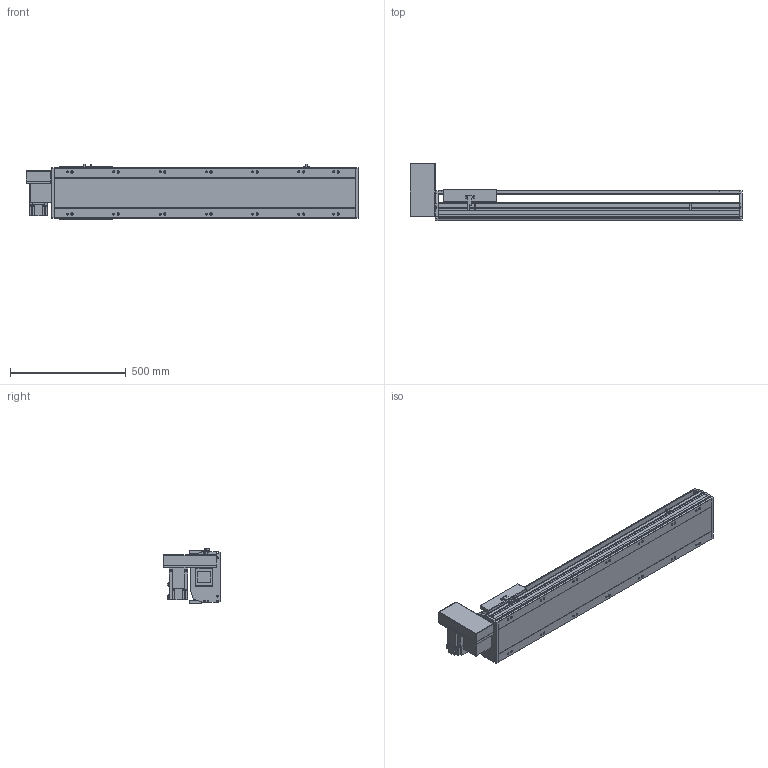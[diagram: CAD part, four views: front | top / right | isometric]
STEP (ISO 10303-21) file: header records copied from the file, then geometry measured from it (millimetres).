
FILE_DESCRIPTION(/* description */ ('STEP AP214'),/* implementation_level */ '2;1');
FILE_NAME(/* name */ 'PBS220-P40-S950-RU-T75-C1-N(0)',/* time_stamp */ '2022-06-13T02:53:22+02:00',/* author */ ('License CC BY-ND 4.0'),/* organization */ ('CADENAS'),/* preprocessor_version */ 'ST-DEVELOPER v18.102',/* originating_system */ 'PARTsolutions',/* authorisation */ ' ');
FILE_SCHEMA (('AUTOMOTIVE_DESIGN {1 0 10303 214 3 1 1}'));
Length unit declared in the file: millimetre
Products named in the file (7): PBS220-P40-S950-RU-T75-C1-N(0); PBS220_sensor; PBS220_plant; PBS220_sliser; T75-p1; PBS220T-RU_motors; PBS220-S950()_body
Assembly tree (8 placements, depth 2):
  PBS220-P40-S950-RU-T75-C1-N(0)
    PBS220_sensor  x3
    PBS220_plant
    PBS220_sliser
    T75-p1
    PBS220T-RU_motors
    PBS220-S950()_body
Bounding box: 1434 x 247 x 238.5 mm (x, y, z)
Volume: 20785646.5 mm3; surface area: 2042479.6 mm2
Topology: 8 solids, 8 shells, 902 faces, 2368 edges, 1540 vertices
Faces by surface type: plane 594, cylinder 270, cone 38
Full cylindrical faces by diameter (mm): 2.013 x4, 4.5 x14, 4.917 x4, 6 x7, 6.647 x8, 8 x10, 8.376 x14, 8.5 x14, 10 x6, 14 x14, 38 x2, 40 x1, 70 x1
Entity records: 25317 total; most frequent: CARTESIAN_POINT 4426, DIRECTION 4401, ORIENTED_EDGE 4070, EDGE_CURVE 2035, AXIS2_PLACEMENT_3D 1529, VERTEX_POINT 1400, LINE 1343, VECTOR 1343
